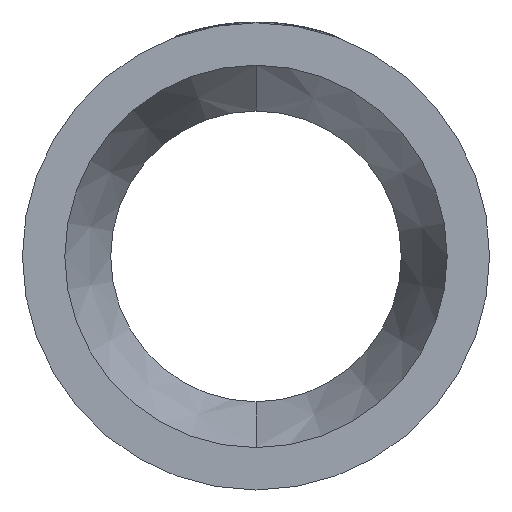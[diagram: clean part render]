
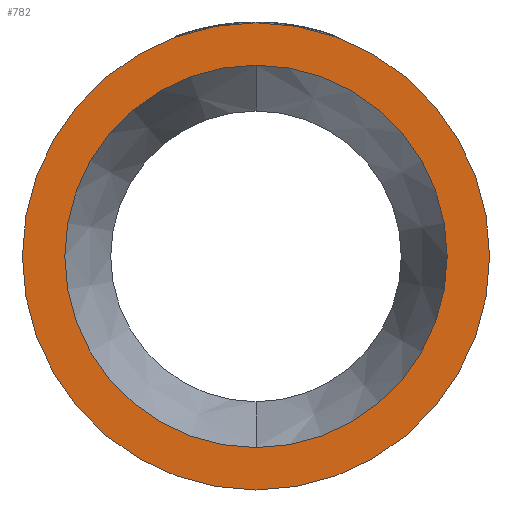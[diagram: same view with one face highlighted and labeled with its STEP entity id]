
A CAD part, left-side view. The second image highlights one B-rep face of the part: STEP entity #782.
In plain terms, the highlighted planar face has unit normal (-1, 0, 0).
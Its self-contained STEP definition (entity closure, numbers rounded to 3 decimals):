
#14 = CARTESIAN_POINT ( 'NONE',  ( 0., 0., 114.6 ) ) ;
#18 = AXIS2_PLACEMENT_3D ( 'NONE', #582, #570, #538 ) ;
#232 = CARTESIAN_POINT ( 'NONE',  ( 0., 0., 140. ) ) ;
#316 = CIRCLE ( 'NONE', #626, 140. ) ;
#341 = AXIS2_PLACEMENT_3D ( 'NONE', #2354, #2332, #2312 ) ;
#360 = CIRCLE ( 'NONE', #649, 114.6 ) ;
#538 = DIRECTION ( 'NONE',  ( 0., 0., 1. ) ) ;
#570 = DIRECTION ( 'NONE',  ( -1., 0., 0. ) ) ;
#582 = CARTESIAN_POINT ( 'NONE',  ( 0., 0., 0. ) ) ;
#626 = AXIS2_PLACEMENT_3D ( 'NONE', #1319, #1294, #1265 ) ;
#649 = AXIS2_PLACEMENT_3D ( 'NONE', #1735, #1677, #1666 ) ;
#782 = ADVANCED_FACE ( 'NONE', ( #1167, #3618 ), #2392, .F. ) ;
#1087 = EDGE_CURVE ( 'NONE', #3378, #3280, #360, .T. ) ;
#1102 = EDGE_CURVE ( 'NONE', #3396, #2209, #316, .T. ) ;
#1167 = FACE_BOUND ( 'NONE', #3405, .T. ) ;
#1265 = DIRECTION ( 'NONE',  ( 0., 0., 1. ) ) ;
#1294 = DIRECTION ( 'NONE',  ( -1., 0., 0. ) ) ;
#1319 = CARTESIAN_POINT ( 'NONE',  ( 0., 0., 0. ) ) ;
#1386 = CIRCLE ( 'NONE', #18, 140. ) ;
#1554 = EDGE_LOOP ( 'NONE', ( #3199, #3244 ) ) ;
#1666 = DIRECTION ( 'NONE',  ( 0., 0., 1. ) ) ;
#1677 = DIRECTION ( 'NONE',  ( -1., 0., 0. ) ) ;
#1735 = CARTESIAN_POINT ( 'NONE',  ( 0., 0., 0. ) ) ;
#2119 = DIRECTION ( 'NONE',  ( 0., 0., -1. ) ) ;
#2125 = DIRECTION ( 'NONE',  ( 1., 0., 0. ) ) ;
#2135 = CARTESIAN_POINT ( 'NONE',  ( 0., 114.6, 0. ) ) ;
#2209 = VERTEX_POINT ( 'NONE', #232 ) ;
#2312 = DIRECTION ( 'NONE',  ( 0., 0., 1. ) ) ;
#2332 = DIRECTION ( 'NONE',  ( -1., 0., 0. ) ) ;
#2354 = CARTESIAN_POINT ( 'NONE',  ( 0., 0., 0. ) ) ;
#2392 = PLANE ( 'NONE',  #2856 ) ;
#2743 = CIRCLE ( 'NONE', #341, 114.6 ) ;
#2807 = EDGE_CURVE ( 'NONE', #3280, #3378, #2743, .T. ) ;
#2856 = AXIS2_PLACEMENT_3D ( 'NONE', #2135, #2125, #2119 ) ;
#3116 = ORIENTED_EDGE ( 'NONE', *, *, #1087, .F. ) ;
#3121 = ORIENTED_EDGE ( 'NONE', *, *, #2807, .F. ) ;
#3199 = ORIENTED_EDGE ( 'NONE', *, *, #3612, .T. ) ;
#3233 = CARTESIAN_POINT ( 'NONE',  ( 0., 0., -140. ) ) ;
#3244 = ORIENTED_EDGE ( 'NONE', *, *, #1102, .T. ) ;
#3280 = VERTEX_POINT ( 'NONE', #3608 ) ;
#3378 = VERTEX_POINT ( 'NONE', #14 ) ;
#3396 = VERTEX_POINT ( 'NONE', #3233 ) ;
#3405 = EDGE_LOOP ( 'NONE', ( #3116, #3121 ) ) ;
#3608 = CARTESIAN_POINT ( 'NONE',  ( 0., 0., -114.6 ) ) ;
#3612 = EDGE_CURVE ( 'NONE', #2209, #3396, #1386, .T. ) ;
#3618 = FACE_OUTER_BOUND ( 'NONE', #1554, .T. ) ;
